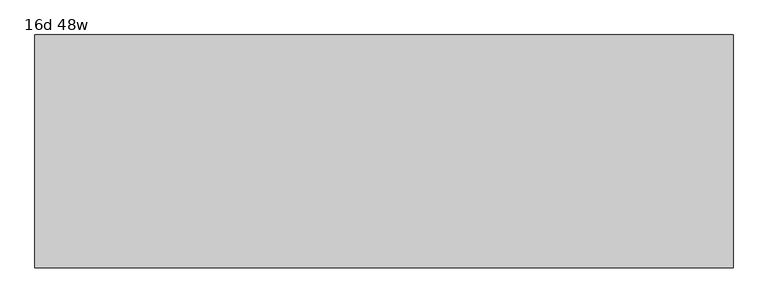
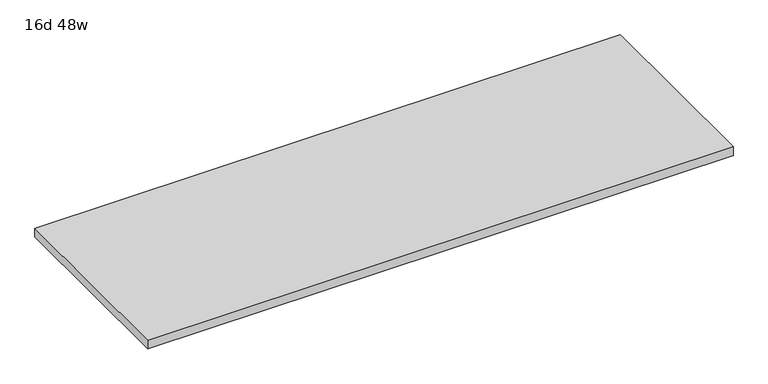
"""IFC4 building model written with IfcOpenShell, lengths in millimetres: furniture geometry, Haworth_BeHold_CommonTop : 16d 48w."""

from ifc_helpers import new_model, si_unit, frame, origin, place, context, project, spatial, polyline, outline, extrude, source, transform, mapped, element, save


def furniture_16d_48w_3132835f(model_context):
    return source(origin(), model_context, "Body", "SweptSolid", [
        extrude(outline(polyline([(452.7408447, -88.9), (452.7408447, -495.3), (-766.4591553, -495.3), (-766.4591553, -88.9), (452.7408447, -88.9)])), frame((0.0, 0.0, 539.75), z_axis=(0.0, 0.0, 1.0), x_axis=(1.0, 0.0, 0.0)), (0.0, 0.0, 1.0), 19.05),
    ])


if __name__ == "__main__":
    model = new_model("IFC4")
    model_context = context("Model", 3, world=origin())
    ifc_project = project(units=[si_unit("LENGTHUNIT", "METRE", prefix="MILLI")], contexts=[model_context])
    site = spatial("IfcSite", under=ifc_project)
    building = spatial("IfcBuilding", under=site)
    placement = place(None, origin())
    furniture_16d_48w_shape = furniture_16d_48w_3132835f(model_context)
    element("IfcFurniture", 1, ObjectType="Haworth_BeHold_CommonTop : 16d 48w", at=placement, inside=building, context=model_context, shape_type="MappedRepresentation", body=[
        mapped(furniture_16d_48w_shape, transform((0.0, 0.0, 0.0), x_axis=(1.0, 0.0, 0.0), y_axis=(0.0, 1.0, 0.0), z_axis=(0.0, 0.0, 1.0))),
    ])
    save(model, "model.ifc")
